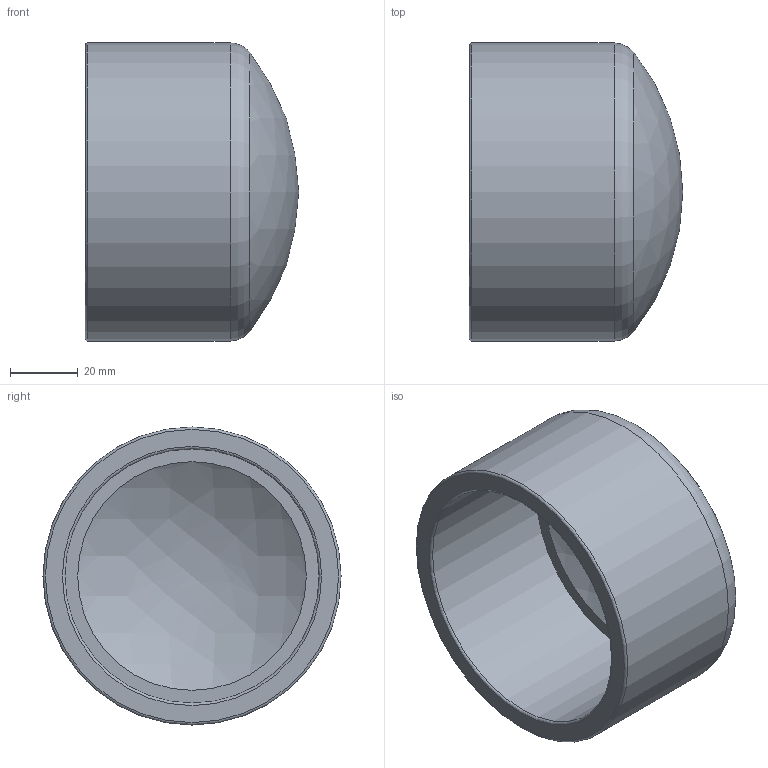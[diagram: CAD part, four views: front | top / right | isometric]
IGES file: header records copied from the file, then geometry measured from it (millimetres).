
Global section: file name: 050700075.ipt; native system: Autodesk Inventor 2015; preprocessor: unknown; author: KIM; date: 20171207.164809; units: millimetre
Bounding box: 63 x 88 x 88 mm (x, y, z)
Volume: 119549.8 mm3; surface area: 36265.3 mm2
Topology: 1 solids, 1 shells, 9 faces, 21 edges, 16 vertices
Faces by surface type: revolution 5, plane 2, cylinder 1, sphere 1
Full cylindrical faces by diameter (mm): 88 x1
